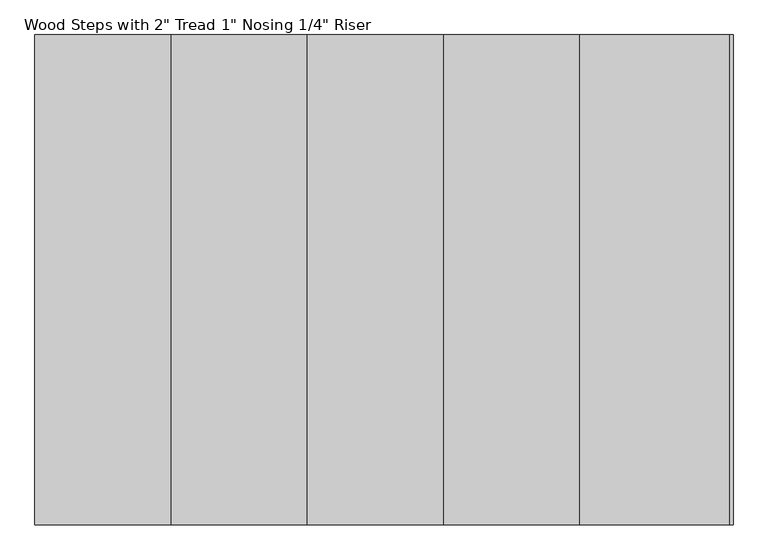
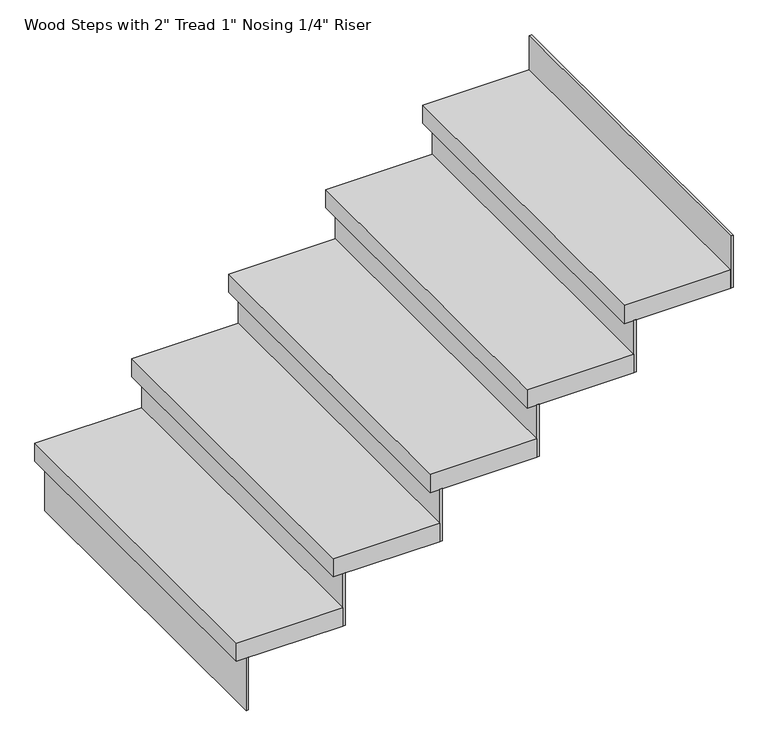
"""IFC4 building model written with IfcOpenShell, lengths in millimetres: stair flight geometry."""

from ifc_helpers import new_model, si_unit, frame, origin, place, context, project, spatial, polyline, outline, extrude, source, transform, mapped, element, save


def stair_flight_474d9439(model_context):
    return source(origin(), model_context, "Body", "SweptSolid", [
        extrude(outline(polyline([(-45773.3618252, 31669.6177722), (-45779.7118252, 31669.6177722), (-45779.7118252, 32584.0177722), (-45773.3618252, 32584.0177722), (-45773.3618252, 31669.6177722)])), frame((0.0, 0.0, 2126.3428571), z_axis=(0.0, 0.0, 1.0), x_axis=(1.0, 0.0, 0.0)), (0.0, 0.0, 1.0), 145.1428571),
        extrude(outline(polyline([(-45525.7118252, 32584.0177722), (-45525.7118252, 31669.6177722), (-45805.1118252, 31669.6177722), (-45805.1118252, 32584.0177722), (-45525.7118252, 32584.0177722)])), frame((0.0, 0.0, 2271.4857143), z_axis=(0.0, 0.0, 1.0), x_axis=(1.0, 0.0, 0.0)), (0.0, 0.0, 1.0), 50.8),
        extrude(outline(polyline([(-45519.3618252, 31669.6177722), (-45525.7118252, 31669.6177722), (-45525.7118252, 32584.0177722), (-45519.3618252, 32584.0177722), (-45519.3618252, 31669.6177722)])), frame((0.0, 0.0, 2271.4857143), z_axis=(0.0, 0.0, 1.0), x_axis=(1.0, 0.0, 0.0)), (0.0, 0.0, 1.0), 145.1428571),
        extrude(outline(polyline([(-45271.7118252, 32584.0177722), (-45271.7118252, 31669.6177722), (-45551.1118252, 31669.6177722), (-45551.1118252, 32584.0177722), (-45271.7118252, 32584.0177722)])), frame((0.0, 0.0, 2416.6285714), z_axis=(0.0, 0.0, 1.0), x_axis=(1.0, 0.0, 0.0)), (0.0, 0.0, 1.0), 50.8),
        extrude(outline(polyline([(-45265.3618252, 31669.6177722), (-45271.7118252, 31669.6177722), (-45271.7118252, 32584.0177722), (-45265.3618252, 32584.0177722), (-45265.3618252, 31669.6177722)])), frame((0.0, 0.0, 2416.6285714), z_axis=(0.0, 0.0, 1.0), x_axis=(1.0, 0.0, 0.0)), (0.0, 0.0, 1.0), 145.1428571),
        extrude(outline(polyline([(-45017.7118252, 32584.0177722), (-45017.7118252, 31669.6177722), (-45297.1118252, 31669.6177722), (-45297.1118252, 32584.0177722), (-45017.7118252, 32584.0177722)])), frame((0.0, 0.0, 2561.7714286), z_axis=(0.0, 0.0, 1.0), x_axis=(1.0, 0.0, 0.0)), (0.0, 0.0, 1.0), 50.8),
        extrude(outline(polyline([(-45011.3618252, 31669.6177722), (-45017.7118252, 31669.6177722), (-45017.7118252, 32584.0177722), (-45011.3618252, 32584.0177722), (-45011.3618252, 31669.6177722)])), frame((0.0, 0.0, 2561.7714286), z_axis=(0.0, 0.0, 1.0), x_axis=(1.0, 0.0, 0.0)), (0.0, 0.0, 1.0), 145.1428571),
        extrude(outline(polyline([(-44763.7118252, 32584.0177722), (-44763.7118252, 31669.6177722), (-45043.1118252, 31669.6177722), (-45043.1118252, 32584.0177722), (-44763.7118252, 32584.0177722)])), frame((0.0, 0.0, 2706.9142857), z_axis=(0.0, 0.0, 1.0), x_axis=(1.0, 0.0, 0.0)), (0.0, 0.0, 1.0), 50.8),
        extrude(outline(polyline([(-44757.3618252, 31669.6177722), (-44763.7118252, 31669.6177722), (-44763.7118252, 32584.0177722), (-44757.3618252, 32584.0177722), (-44757.3618252, 31669.6177722)])), frame((0.0, 0.0, 2706.9142857), z_axis=(0.0, 0.0, 1.0), x_axis=(1.0, 0.0, 0.0)), (0.0, 0.0, 1.0), 145.1428571),
        extrude(outline(polyline([(-44503.3618252, 31669.6177722), (-44509.7118252, 31669.6177722), (-44509.7118252, 32584.0177722), (-44503.3618252, 32584.0177722), (-44503.3618252, 31669.6177722)])), frame((0.0, 0.0, 2852.0571429), z_axis=(0.0, 0.0, 1.0), x_axis=(1.0, 0.0, 0.0)), (0.0, 0.0, 1.0), 145.1428571),
        extrude(outline(polyline([(-44509.7118252, 32584.0177722), (-44509.7118252, 31669.6177722), (-44789.1118252, 31669.6177722), (-44789.1118252, 32584.0177722), (-44509.7118252, 32584.0177722)])), frame((0.0, 0.0, 2852.0571429), z_axis=(0.0, 0.0, 1.0), x_axis=(1.0, 0.0, 0.0)), (0.0, 0.0, 1.0), 50.8),
    ])


if __name__ == "__main__":
    model = new_model("IFC4")
    model_context = context("Model", 3, world=origin())
    ifc_project = project(units=[si_unit("LENGTHUNIT", "METRE", prefix="MILLI")], contexts=[model_context])
    site = spatial("IfcSite", under=ifc_project)
    building = spatial("IfcBuilding", under=site)
    placement = place(None, origin())
    stair_flight_shape = stair_flight_474d9439(model_context)
    element("IfcStairFlight", 1, ObjectType="Wood Steps with 2\" Tread 1\" Nosing 1/4\" Riser", at=placement, inside=building, context=model_context, shape_type="MappedRepresentation", body=[
        mapped(stair_flight_shape, transform((0.0, 0.0, 0.0), x_axis=(1.0, 0.0, 0.0), y_axis=(0.0, 1.0, 0.0), z_axis=(0.0, 0.0, 1.0))),
    ])
    save(model, "model.ifc")
